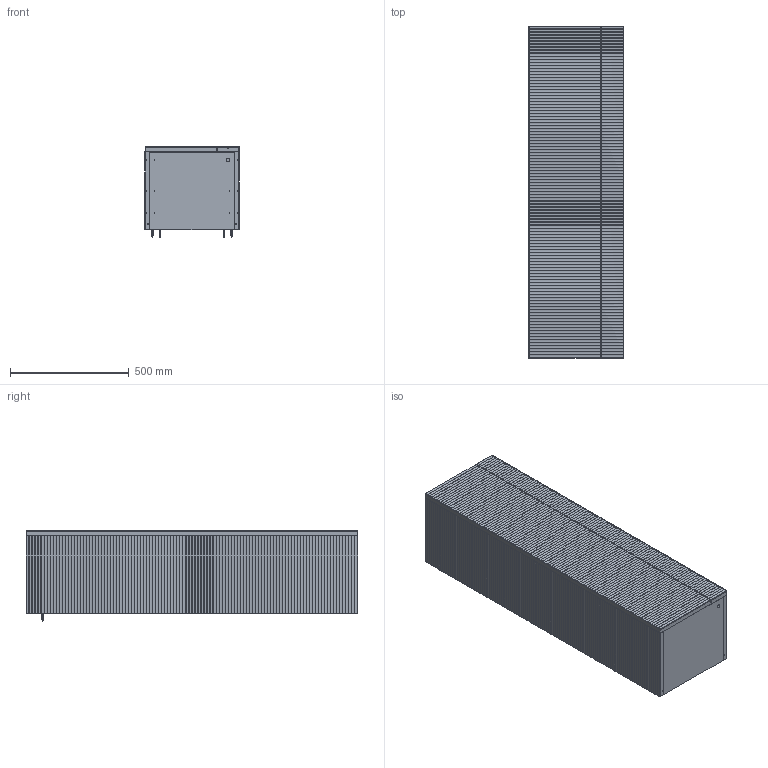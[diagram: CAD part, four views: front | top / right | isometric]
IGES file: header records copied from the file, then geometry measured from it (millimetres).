
Global section: file name: Vanessa Boy Dolabı ,; native system: Autodesk Inventor 2024; preprocessor: unknown; author: pc11; date: 20250328.171033; units: millimetre
Bounding box: 400 x 1400 x 383.1 mm (x, y, z)
Volume: 40013553.6 mm3; surface area: 8542357.4 mm2
Topology: 28 solids, 32 shells, 3472 faces, 9299 edges, 5931 vertices
Faces by surface type: bspline 3472
